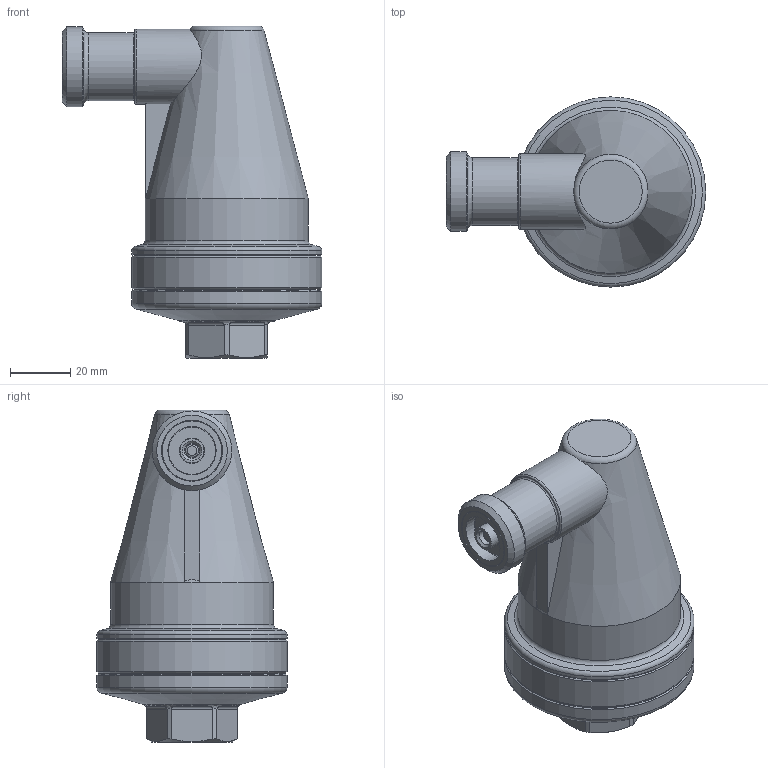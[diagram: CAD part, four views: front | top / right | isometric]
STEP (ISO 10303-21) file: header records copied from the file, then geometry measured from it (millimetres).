
FILE_DESCRIPTION(/* description */ (''),/* implementation_level */ '2;1');
FILE_NAME(/* name */ '\\DATASERVER\data\Flamco\3D-Modellen\Inventor\3D-CAD\Flexvent Pro\28519_flexvent-pro.stp',/* time_stamp */ '2021-04-12T15:47:10+02:00',/* author */ ('kasius'),/* organization */ (''),/* preprocessor_version */ 'ST-DEVELOPER v17',/* originating_system */ 'Autodesk Inventor 2018',/* authorisation */ '');
FILE_SCHEMA (('AUTOMOTIVE_DESIGN { 1 0 10303 214 3 1 1 }'));
Length unit declared in the file: millimetre
Products named in the file (1): 28519_flexvent-pro
Bounding box: 86 x 63 x 110 mm (x, y, z)
Volume: 201884.4 mm3; surface area: 25037.9 mm2
Topology: 1 solids, 1 shells, 81 faces, 228 edges, 160 vertices
Faces by surface type: plane 29, cylinder 26, cone 14, torus 10, bspline 2
Full cylindrical faces by diameter (mm): 4.363 x1, 5 x1, 8 x1, 16 x1, 19 x1, 22.5 x1, 25 x1, 26.4 x1, 54 x1, 58.5 x2, 63 x3
Entity records: 3210 total; most frequent: CARTESIAN_POINT 1020, DIRECTION 464, ORIENTED_EDGE 456, EDGE_CURVE 228, AXIS2_PLACEMENT_3D 204, VERTEX_POINT 160, CIRCLE 124, EDGE_LOOP 92
